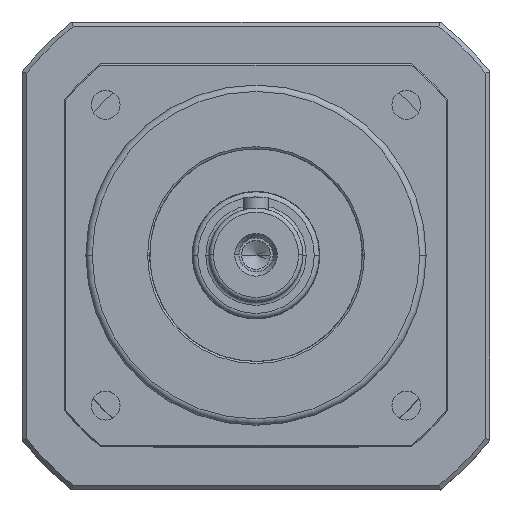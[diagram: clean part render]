
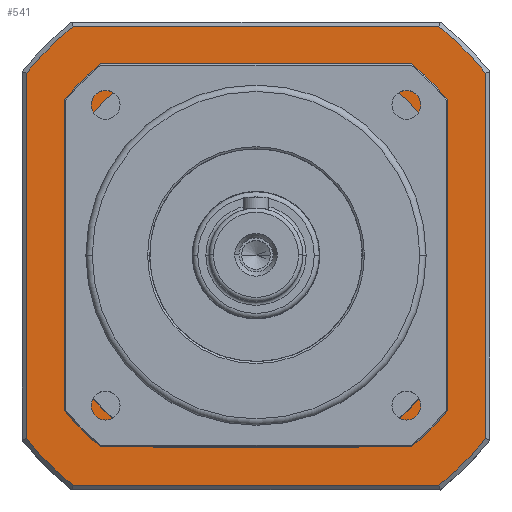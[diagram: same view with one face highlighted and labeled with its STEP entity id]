
A CAD part, top view. The second image highlights one B-rep face of the part: STEP entity #541.
In plain terms, the highlighted planar face has unit normal (0, 0, 1).
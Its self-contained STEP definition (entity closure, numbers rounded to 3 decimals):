
#541 = ADVANCED_FACE ( 'NONE', ( #16707, #16708 ), #1042, .T. ) ;
#1042 = PLANE ( 'NONE',  #7992 ) ;
#1043 = CARTESIAN_POINT ( 'NONE',  ( 0., 0., -90.5 ) ) ;
#1044 = DIRECTION ( 'NONE',  ( 0., 0., 1. ) ) ;
#1045 = DIRECTION ( 'NONE',  ( 1., 0., 0. ) ) ;
#1265 = EDGE_CURVE ( 'NONE', #3280, #3281, #16819, .T. ) ;
#1266 = EDGE_CURVE ( 'NONE', #3279, #3280, #8231, .T. ) ;
#1267 = EDGE_CURVE ( 'NONE', #3281, #3282, #8203, .T. ) ;
#1268 = EDGE_CURVE ( 'NONE', #3282, #3283, #16820, .T. ) ;
#1269 = EDGE_CURVE ( 'NONE', #3283, #3284, #8225, .T. ) ;
#1270 = EDGE_CURVE ( 'NONE', #3284, #3285, #16821, .T. ) ;
#1271 = EDGE_CURVE ( 'NONE', #3285, #3286, #8227, .T. ) ;
#1272 = EDGE_CURVE ( 'NONE', #3289, #3287, #8234, .T. ) ;
#1811 = CARTESIAN_POINT ( 'NONE',  ( -0.003, -54., -90.5 ) ) ;
#1812 = DIRECTION ( 'NONE',  ( 1., 0., 0. ) ) ;
#1813 = CARTESIAN_POINT ( 'NONE',  ( -44.999, 24.002, -90.5 ) ) ;
#1814 = DIRECTION ( 'NONE',  ( 0., -1., 0. ) ) ;
#1815 = CARTESIAN_POINT ( 'NONE',  ( -23.998, 45.001, -90.5 ) ) ;
#1816 = DIRECTION ( 'NONE',  ( -1., 0., 0. ) ) ;
#1817 = CARTESIAN_POINT ( 'NONE',  ( 0., 0., -90.5 ) ) ;
#1818 = DIRECTION ( 'NONE',  ( 0., 0., 1. ) ) ;
#1819 = DIRECTION ( 'NONE',  ( 1., 0., 0. ) ) ;
#1820 = CARTESIAN_POINT ( 'NONE',  ( 45.001, 23.998, -90.5 ) ) ;
#1821 = DIRECTION ( 'NONE',  ( 0., 1., 0. ) ) ;
#1822 = CARTESIAN_POINT ( 'NONE',  ( 0., 0., -90.5 ) ) ;
#1823 = DIRECTION ( 'NONE',  ( 0., 0., 1. ) ) ;
#1824 = DIRECTION ( 'NONE',  ( 1., 0., 0. ) ) ;
#1825 = CARTESIAN_POINT ( 'NONE',  ( -24.002, -44.999, -90.5 ) ) ;
#1826 = DIRECTION ( 'NONE',  ( 1., 0., 0. ) ) ;
#1827 = CARTESIAN_POINT ( 'NONE',  ( 0., 0., -90.5 ) ) ;
#1828 = DIRECTION ( 'NONE',  ( 0., 0., 1. ) ) ;
#1829 = DIRECTION ( 'NONE',  ( 1., 0., 0. ) ) ;
#3279 = VERTEX_POINT ( 'NONE', #16623 ) ;
#3280 = VERTEX_POINT ( 'NONE', #16624 ) ;
#3281 = VERTEX_POINT ( 'NONE', #16625 ) ;
#3282 = VERTEX_POINT ( 'NONE', #16626 ) ;
#3283 = VERTEX_POINT ( 'NONE', #16627 ) ;
#3284 = VERTEX_POINT ( 'NONE', #16628 ) ;
#3285 = VERTEX_POINT ( 'NONE', #16629 ) ;
#3286 = VERTEX_POINT ( 'NONE', #16630 ) ;
#3287 = VERTEX_POINT ( 'NONE', #16631 ) ;
#3288 = VERTEX_POINT ( 'NONE', #16632 ) ;
#3289 = VERTEX_POINT ( 'NONE', #16633 ) ;
#3290 = VERTEX_POINT ( 'NONE', #16634 ) ;
#3291 = VERTEX_POINT ( 'NONE', #16635 ) ;
#3292 = VERTEX_POINT ( 'NONE', #16636 ) ;
#3293 = VERTEX_POINT ( 'NONE', #16637 ) ;
#3294 = VERTEX_POINT ( 'NONE', #16638 ) ;
#3462 = ORIENTED_EDGE ( 'NONE', *, *, #1266, .T. ) ;
#3463 = ORIENTED_EDGE ( 'NONE', *, *, #1267, .T. ) ;
#3464 = ORIENTED_EDGE ( 'NONE', *, *, #1265, .T. ) ;
#3465 = ORIENTED_EDGE ( 'NONE', *, *, #1268, .T. ) ;
#3466 = ORIENTED_EDGE ( 'NONE', *, *, #1269, .T. ) ;
#3467 = ORIENTED_EDGE ( 'NONE', *, *, #1270, .T. ) ;
#3468 = ORIENTED_EDGE ( 'NONE', *, *, #1271, .T. ) ;
#3469 = ORIENTED_EDGE ( 'NONE', *, *, #16372, .T. ) ;
#4917 = LINE ( 'NONE', #1811, #5562 ) ;
#4918 = LINE ( 'NONE', #1813, #5563 ) ;
#4919 = LINE ( 'NONE', #1815, #5565 ) ;
#4920 = LINE ( 'NONE', #1820, #5568 ) ;
#4921 = LINE ( 'NONE', #1825, #5572 ) ;
#5562 = VECTOR ( 'NONE', #1812, 1000. ) ;
#5563 = VECTOR ( 'NONE', #1814, 1000. ) ;
#5564 = CIRCLE ( 'NONE', #5566, 51. ) ;
#5565 = VECTOR ( 'NONE', #1816, 1000. ) ;
#5566 = AXIS2_PLACEMENT_3D ( 'NONE', #1817, #1818, #1819 ) ;
#5567 = CIRCLE ( 'NONE', #5569, 51. ) ;
#5568 = VECTOR ( 'NONE', #1821, 1000. ) ;
#5569 = AXIS2_PLACEMENT_3D ( 'NONE', #1822, #1823, #1824 ) ;
#5571 = CIRCLE ( 'NONE', #5573, 51. ) ;
#5572 = VECTOR ( 'NONE', #1826, 1000. ) ;
#5573 = AXIS2_PLACEMENT_3D ( 'NONE', #1827, #1828, #1829 ) ;
#6433 = CARTESIAN_POINT ( 'NONE',  ( 54., -0.003, -90.5 ) ) ;
#6434 = DIRECTION ( 'NONE',  ( 0., 1., 0. ) ) ;
#6435 = CARTESIAN_POINT ( 'NONE',  ( 0., 0., -90.5 ) ) ;
#6436 = DIRECTION ( 'NONE',  ( 0., 0., 1. ) ) ;
#6437 = DIRECTION ( 'NONE',  ( 1., 0., 0. ) ) ;
#6438 = CARTESIAN_POINT ( 'NONE',  ( 0., 0., -90.5 ) ) ;
#6439 = DIRECTION ( 'NONE',  ( 0., 0., 1. ) ) ;
#6440 = DIRECTION ( 'NONE',  ( 1., 0., 0. ) ) ;
#6441 = CARTESIAN_POINT ( 'NONE',  ( 0.003, 54., -90.5 ) ) ;
#6442 = DIRECTION ( 'NONE',  ( -1., 0., 0. ) ) ;
#6443 = CARTESIAN_POINT ( 'NONE',  ( 0., 0., -90.5 ) ) ;
#6444 = DIRECTION ( 'NONE',  ( 0., 0., 1. ) ) ;
#6445 = DIRECTION ( 'NONE',  ( 1., 0., 0. ) ) ;
#6446 = CARTESIAN_POINT ( 'NONE',  ( -54., 0.003, -90.5 ) ) ;
#6447 = DIRECTION ( 'NONE',  ( 0., -1., 0. ) ) ;
#6448 = CARTESIAN_POINT ( 'NONE',  ( 0., 0., -90.5 ) ) ;
#6449 = DIRECTION ( 'NONE',  ( 0., 0., 1. ) ) ;
#6450 = DIRECTION ( 'NONE',  ( 1., 0., 0. ) ) ;
#6451 = CARTESIAN_POINT ( 'NONE',  ( 0., 0., -90.5 ) ) ;
#6452 = DIRECTION ( 'NONE',  ( 0., 0., 1. ) ) ;
#6453 = DIRECTION ( 'NONE',  ( 1., 0., 0. ) ) ;
#7992 = AXIS2_PLACEMENT_3D ( 'NONE', #1043, #1044, #1045 ) ;
#8203 = CIRCLE ( 'NONE', #8235, 69. ) ;
#8225 = CIRCLE ( 'NONE', #8238, 69. ) ;
#8227 = CIRCLE ( 'NONE', #8241, 69. ) ;
#8231 = CIRCLE ( 'NONE', #8233, 69. ) ;
#8232 = VECTOR ( 'NONE', #6434, 1000. ) ;
#8233 = AXIS2_PLACEMENT_3D ( 'NONE', #6435, #6436, #6437 ) ;
#8234 = CIRCLE ( 'NONE', #18247, 51. ) ;
#8235 = AXIS2_PLACEMENT_3D ( 'NONE', #6438, #6439, #6440 ) ;
#8237 = VECTOR ( 'NONE', #6442, 1000. ) ;
#8238 = AXIS2_PLACEMENT_3D ( 'NONE', #6443, #6444, #6445 ) ;
#8240 = VECTOR ( 'NONE', #6447, 1000. ) ;
#8241 = AXIS2_PLACEMENT_3D ( 'NONE', #6448, #6449, #6450 ) ;
#10452 = ORIENTED_EDGE ( 'NONE', *, *, #16373, .F. ) ;
#10453 = ORIENTED_EDGE ( 'NONE', *, *, #16374, .F. ) ;
#10454 = ORIENTED_EDGE ( 'NONE', *, *, #1272, .F. ) ;
#10455 = ORIENTED_EDGE ( 'NONE', *, *, #16375, .F. ) ;
#10456 = ORIENTED_EDGE ( 'NONE', *, *, #16376, .F. ) ;
#10457 = ORIENTED_EDGE ( 'NONE', *, *, #16377, .F. ) ;
#10458 = ORIENTED_EDGE ( 'NONE', *, *, #16378, .F. ) ;
#10459 = ORIENTED_EDGE ( 'NONE', *, *, #16379, .F. ) ;
#16372 = EDGE_CURVE ( 'NONE', #3286, #3279, #4917, .T. ) ;
#16373 = EDGE_CURVE ( 'NONE', #3287, #3288, #4918, .T. ) ;
#16374 = EDGE_CURVE ( 'NONE', #3290, #3289, #4919, .T. ) ;
#16375 = EDGE_CURVE ( 'NONE', #3291, #3290, #5564, .T. ) ;
#16376 = EDGE_CURVE ( 'NONE', #3292, #3291, #4920, .T. ) ;
#16377 = EDGE_CURVE ( 'NONE', #3293, #3292, #5567, .T. ) ;
#16378 = EDGE_CURVE ( 'NONE', #3294, #3293, #4921, .T. ) ;
#16379 = EDGE_CURVE ( 'NONE', #3288, #3294, #5571, .T. ) ;
#16623 = CARTESIAN_POINT ( 'NONE',  ( 42.951, -54.002, -90.5 ) ) ;
#16624 = CARTESIAN_POINT ( 'NONE',  ( 53.998, -42.956, -90.5 ) ) ;
#16625 = CARTESIAN_POINT ( 'NONE',  ( 54.002, 42.951, -90.5 ) ) ;
#16626 = CARTESIAN_POINT ( 'NONE',  ( 42.956, 53.998, -90.5 ) ) ;
#16627 = CARTESIAN_POINT ( 'NONE',  ( -42.951, 54.002, -90.5 ) ) ;
#16628 = CARTESIAN_POINT ( 'NONE',  ( -53.998, 42.956, -90.5 ) ) ;
#16629 = CARTESIAN_POINT ( 'NONE',  ( -54.002, -42.951, -90.5 ) ) ;
#16630 = CARTESIAN_POINT ( 'NONE',  ( -42.956, -53.998, -90.5 ) ) ;
#16631 = CARTESIAN_POINT ( 'NONE',  ( -44.999, 24.002, -90.5 ) ) ;
#16632 = CARTESIAN_POINT ( 'NONE',  ( -45.001, -23.998, -90.5 ) ) ;
#16633 = CARTESIAN_POINT ( 'NONE',  ( -23.998, 45.001, -90.5 ) ) ;
#16634 = CARTESIAN_POINT ( 'NONE',  ( 24.002, 44.999, -90.5 ) ) ;
#16635 = CARTESIAN_POINT ( 'NONE',  ( 45.001, 23.998, -90.5 ) ) ;
#16636 = CARTESIAN_POINT ( 'NONE',  ( 44.999, -24.002, -90.5 ) ) ;
#16637 = CARTESIAN_POINT ( 'NONE',  ( 23.998, -45.001, -90.5 ) ) ;
#16638 = CARTESIAN_POINT ( 'NONE',  ( -24.002, -44.999, -90.5 ) ) ;
#16707 = FACE_OUTER_BOUND ( 'NONE', #18898, .T. ) ;
#16708 = FACE_BOUND ( 'NONE', #18899, .T. ) ;
#16819 = LINE ( 'NONE', #6433, #8232 ) ;
#16820 = LINE ( 'NONE', #6441, #8237 ) ;
#16821 = LINE ( 'NONE', #6446, #8240 ) ;
#18247 = AXIS2_PLACEMENT_3D ( 'NONE', #6451, #6452, #6453 ) ;
#18898 = EDGE_LOOP ( 'NONE', ( #3462, #3464, #3463, #3465, #3466, #3467, #3468, #3469 ) ) ;
#18899 = EDGE_LOOP ( 'NONE', ( #10452, #10454, #10453, #10455, #10456, #10457, #10458, #10459 ) ) ;
